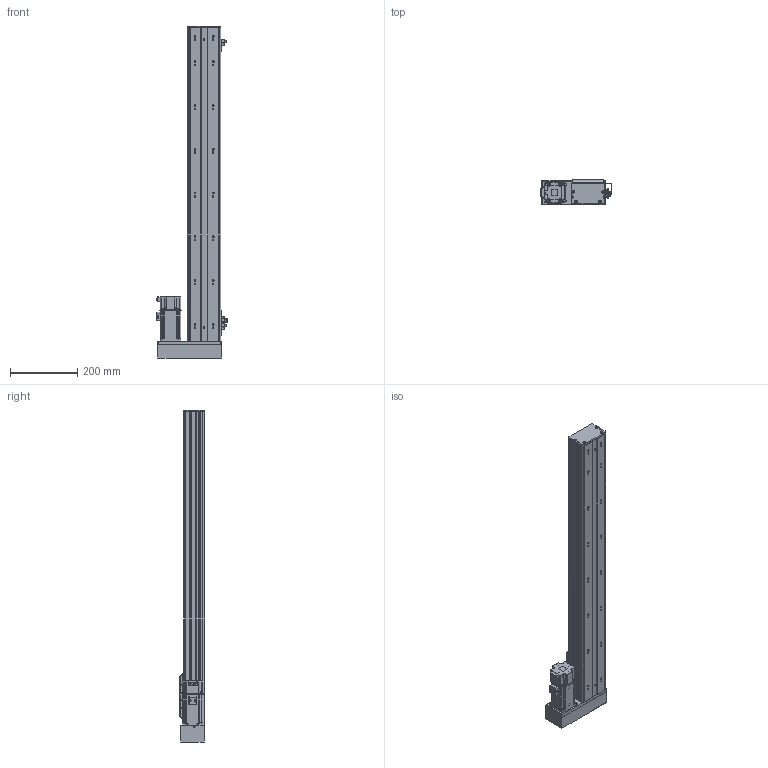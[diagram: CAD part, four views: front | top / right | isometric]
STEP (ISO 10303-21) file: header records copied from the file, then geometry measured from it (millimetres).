
FILE_DESCRIPTION (( 'STEP AP203' ), '1' );
FILE_NAME ('BOSW100-750-1610-1P-RM-M400W-O-S3（方程式2016）.step', '2020-10-10T07:20:17', ( '' ), ( '' ), 'SwSTEP 2.0', 'SolidWorks 2016', '' );
FILE_SCHEMA (( 'CONFIG_CONTROL_DESIGN' ));
Length unit declared in the file: millimetre
Products named in the file (14): S400W(SMA-L040); boS-100-LM&RM-三菱M400W马达板-宽轨; BOSW-100-1P-DM-750諦誧芞; AIMS(W)-100-LM&RM-肮祭謫欶; BOSW-100-綴裔啣; BOSW100-750-1610-1P-RM-M400W-O-S3（方程式2016）; 俋境嫖覜嘐隅啣; BOSW&TW-100-俋离覜茼え; BOSW-100-1P-DM-宽轨-钢带-750客户图纸; 放大器内置U型微型光电传感器PM-L65; BOSW&TW-100-1P-賑雄釱欶; BOSW-100-1P-DM-宽轨-侧板-750客户图纸; 新结构AIMSW-100-1P-宽&高轨共用-滑动座上组件; BOSW&TW-100-詩湍揤沭(陔賦凳)
Assembly tree (19 placements, depth 2):
  BOSW100-750-1610-1P-RM-M400W-O-S3（方程式2016）
    BOSW-100-1P-DM-750諦誧芞
    BOSW-100-綴裔啣
    新结构AIMSW-100-1P-宽&高轨共用-滑动座上组件
    S400W(SMA-L040)
    BOSW&TW-100-詩湍揤沭(陔賦凳)  x2
    BOSW&TW-100-1P-賑雄釱欶
    BOSW-100-1P-DM-宽轨-侧板-750客户图纸  x2
    BOSW-100-1P-DM-宽轨-钢带-750客户图纸
    AIMS(W)-100-LM&RM-肮祭謫欶
    boS-100-LM&RM-三菱M400W马达板-宽轨
    俋境嫖覜嘐隅啣  x3
    放大器内置U型微型光电传感器PM-L65  x3
    BOSW&TW-100-俋离覜茼え
Bounding box: 213.4 x 75 x 986 mm (x, y, z)
Volume: 2197132.2 mm3; surface area: 1030385 mm2
Topology: 19 solids, 20 shells, 2549 faces, 6735 edges, 4299 vertices
Faces by surface type: plane 1245, cylinder 818, bspline 271, cone 167, torus 36, sphere 12
Entity records: 70148 total; most frequent: CARTESIAN_POINT 20968, ORIENTED_EDGE 10010, DIRECTION 9705, EDGE_CURVE 5005, AXIS2_PLACEMENT_3D 3449, VERTEX_POINT 3201, LINE 2807, VECTOR 2807
